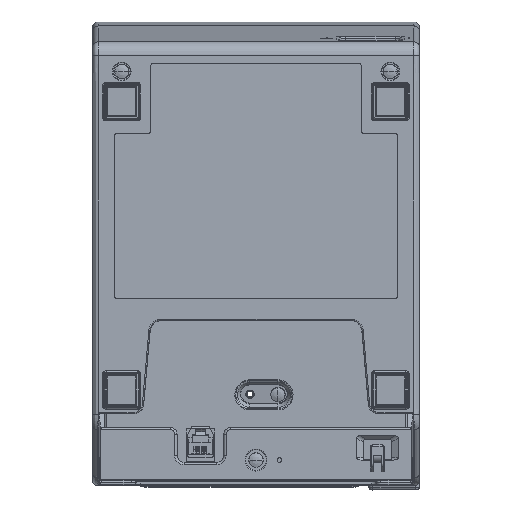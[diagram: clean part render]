
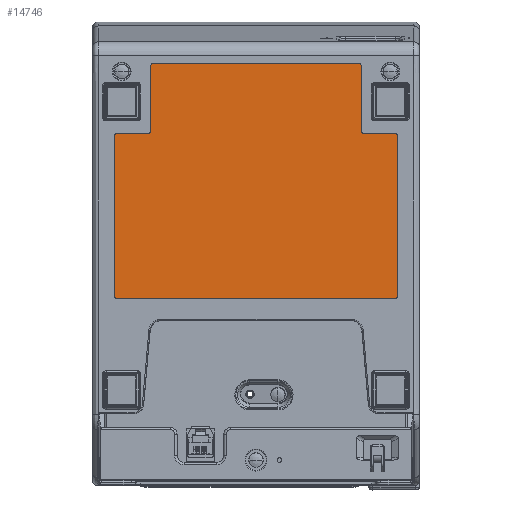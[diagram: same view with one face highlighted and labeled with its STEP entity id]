
A CAD part, front view. The second image highlights one B-rep face of the part: STEP entity #14746.
In plain terms, the highlighted planar face has unit normal (0, -1, 0).
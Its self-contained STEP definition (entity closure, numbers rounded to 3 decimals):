
#1990=DIRECTION('',(1.,0.,0.));
#1991=VECTOR('',#1990,13.5);
#1992=CARTESIAN_POINT('',(-59.5,0.4,-49.));
#1993=LINE('',#1992,#1991);
#1994=CARTESIAN_POINT('',(-46.,0.4,-48.));
#1995=DIRECTION('',(0.,-1.,0.));
#1996=DIRECTION('',(0.,0.,-1.));
#1997=AXIS2_PLACEMENT_3D('',#1994,#1995,#1996);
#1999=DIRECTION('',(0.,0.,1.));
#2000=VECTOR('',#1999,28.);
#2001=CARTESIAN_POINT('',(-45.,0.4,-48.));
#2002=LINE('',#2001,#2000);
#2003=CARTESIAN_POINT('',(-44.,0.4,-20.));
#2004=DIRECTION('',(0.,1.,0.));
#2005=DIRECTION('',(-1.,0.,0.));
#2006=AXIS2_PLACEMENT_3D('',#2003,#2004,#2005);
#2008=DIRECTION('',(1.,0.,0.));
#2009=VECTOR('',#2008,88.);
#2010=CARTESIAN_POINT('',(-44.,0.4,-19.));
#2011=LINE('',#2010,#2009);
#2012=CARTESIAN_POINT('',(44.,0.4,-20.));
#2013=DIRECTION('',(0.,1.,0.));
#2014=DIRECTION('',(0.,0.,1.));
#2015=AXIS2_PLACEMENT_3D('',#2012,#2013,#2014);
#2017=DIRECTION('',(0.,0.,-1.));
#2018=VECTOR('',#2017,28.);
#2019=CARTESIAN_POINT('',(45.,0.4,-20.));
#2020=LINE('',#2019,#2018);
#2021=CARTESIAN_POINT('',(46.,0.4,-48.));
#2022=DIRECTION('',(0.,-1.,0.));
#2023=DIRECTION('',(-1.,0.,0.));
#2024=AXIS2_PLACEMENT_3D('',#2021,#2022,#2023);
#2026=DIRECTION('',(1.,0.,0.));
#2027=VECTOR('',#2026,13.5);
#2028=CARTESIAN_POINT('',(46.,0.4,-49.));
#2029=LINE('',#2028,#2027);
#2030=CARTESIAN_POINT('',(59.5,0.4,-50.));
#2031=DIRECTION('',(0.,1.,0.));
#2032=DIRECTION('',(0.,0.,1.));
#2033=AXIS2_PLACEMENT_3D('',#2030,#2031,#2032);
#2035=DIRECTION('',(0.,0.,-1.));
#2036=VECTOR('',#2035,69.);
#2037=CARTESIAN_POINT('',(60.5,0.4,-50.));
#2038=LINE('',#2037,#2036);
#2039=CARTESIAN_POINT('',(59.5,0.4,-119.));
#2040=DIRECTION('',(0.,1.,0.));
#2041=DIRECTION('',(1.,0.,0.));
#2042=AXIS2_PLACEMENT_3D('',#2039,#2040,#2041);
#2044=DIRECTION('',(-1.,0.,0.));
#2045=VECTOR('',#2044,119.);
#2046=CARTESIAN_POINT('',(59.5,0.4,-120.));
#2047=LINE('',#2046,#2045);
#2048=CARTESIAN_POINT('',(-59.5,0.4,-119.));
#2049=DIRECTION('',(0.,1.,0.));
#2050=DIRECTION('',(0.,0.,-1.));
#2051=AXIS2_PLACEMENT_3D('',#2048,#2049,#2050);
#2053=DIRECTION('',(0.,0.,1.));
#2054=VECTOR('',#2053,69.);
#2055=CARTESIAN_POINT('',(-60.5,0.4,-119.));
#2056=LINE('',#2055,#2054);
#2057=CARTESIAN_POINT('',(-59.5,0.4,-50.));
#2058=DIRECTION('',(0.,1.,0.));
#2059=DIRECTION('',(-1.,0.,0.));
#2060=AXIS2_PLACEMENT_3D('',#2057,#2058,#2059);
#12872=CARTESIAN_POINT('',(-59.5,0.4,-49.));
#12873=CARTESIAN_POINT('',(-60.5,0.4,-50.));
#12874=VERTEX_POINT('',#12872);
#12875=VERTEX_POINT('',#12873);
#12876=CARTESIAN_POINT('',(59.5,0.4,-120.));
#12877=CARTESIAN_POINT('',(60.5,0.4,-119.));
#12878=VERTEX_POINT('',#12876);
#12879=VERTEX_POINT('',#12877);
#12880=CARTESIAN_POINT('',(-60.5,0.4,-119.));
#12881=CARTESIAN_POINT('',(-59.5,0.4,-120.));
#12882=VERTEX_POINT('',#12880);
#12883=VERTEX_POINT('',#12881);
#12884=CARTESIAN_POINT('',(60.5,0.4,-50.));
#12885=VERTEX_POINT('',#12884);
#13493=CARTESIAN_POINT('',(59.5,0.4,-49.));
#13494=VERTEX_POINT('',#13493);
#13495=CARTESIAN_POINT('',(-44.,0.4,-19.));
#13496=CARTESIAN_POINT('',(-45.,0.4,-20.));
#13497=VERTEX_POINT('',#13495);
#13498=VERTEX_POINT('',#13496);
#13499=CARTESIAN_POINT('',(45.,0.4,-20.));
#13500=CARTESIAN_POINT('',(44.,0.4,-19.));
#13501=VERTEX_POINT('',#13499);
#13502=VERTEX_POINT('',#13500);
#13519=CARTESIAN_POINT('',(-46.,0.4,-49.));
#13520=VERTEX_POINT('',#13519);
#13521=CARTESIAN_POINT('',(46.,0.4,-49.));
#13522=CARTESIAN_POINT('',(45.,0.4,-48.));
#13523=VERTEX_POINT('',#13521);
#13524=VERTEX_POINT('',#13522);
#13525=CARTESIAN_POINT('',(-45.,0.4,-48.));
#13526=VERTEX_POINT('',#13525);
#14707=CARTESIAN_POINT('',(0.,0.4,0.));
#14708=DIRECTION('',(0.,-1.,0.));
#14709=DIRECTION('',(1.,0.,0.));
#14710=AXIS2_PLACEMENT_3D('',#14707,#14708,#14709);
#14711=PLANE('',#14710);
#14713=ORIENTED_EDGE('',*,*,#14712,.T.);
#14715=ORIENTED_EDGE('',*,*,#14714,.T.);
#14717=ORIENTED_EDGE('',*,*,#14716,.T.);
#14719=ORIENTED_EDGE('',*,*,#14718,.T.);
#14721=ORIENTED_EDGE('',*,*,#14720,.T.);
#14723=ORIENTED_EDGE('',*,*,#14722,.T.);
#14725=ORIENTED_EDGE('',*,*,#14724,.T.);
#14727=ORIENTED_EDGE('',*,*,#14726,.T.);
#14729=ORIENTED_EDGE('',*,*,#14728,.T.);
#14731=ORIENTED_EDGE('',*,*,#14730,.T.);
#14733=ORIENTED_EDGE('',*,*,#14732,.T.);
#14735=ORIENTED_EDGE('',*,*,#14734,.T.);
#14737=ORIENTED_EDGE('',*,*,#14736,.T.);
#14739=ORIENTED_EDGE('',*,*,#14738,.T.);
#14741=ORIENTED_EDGE('',*,*,#14740,.T.);
#14743=ORIENTED_EDGE('',*,*,#14742,.T.);
#14744=EDGE_LOOP('',(#14713,#14715,#14717,#14719,#14721,#14723,#14725,#14727,
#14729,#14731,#14733,#14735,#14737,#14739,#14741,#14743));
#14745=FACE_OUTER_BOUND('',#14744,.F.);
#1998=CIRCLE('',#1997,1.);
#2007=CIRCLE('',#2006,1.);
#2016=CIRCLE('',#2015,1.);
#2025=CIRCLE('',#2024,1.);
#2034=CIRCLE('',#2033,1.);
#2043=CIRCLE('',#2042,1.);
#2052=CIRCLE('',#2051,1.);
#2061=CIRCLE('',#2060,1.);
#14712=EDGE_CURVE('',#12874,#13520,#1993,.T.);
#14714=EDGE_CURVE('',#13520,#13526,#1998,.T.);
#14716=EDGE_CURVE('',#13526,#13498,#2002,.T.);
#14718=EDGE_CURVE('',#13498,#13497,#2007,.T.);
#14720=EDGE_CURVE('',#13497,#13502,#2011,.T.);
#14722=EDGE_CURVE('',#13502,#13501,#2016,.T.);
#14724=EDGE_CURVE('',#13501,#13524,#2020,.T.);
#14726=EDGE_CURVE('',#13524,#13523,#2025,.T.);
#14728=EDGE_CURVE('',#13523,#13494,#2029,.T.);
#14730=EDGE_CURVE('',#13494,#12885,#2034,.T.);
#14732=EDGE_CURVE('',#12885,#12879,#2038,.T.);
#14734=EDGE_CURVE('',#12879,#12878,#2043,.T.);
#14736=EDGE_CURVE('',#12878,#12883,#2047,.T.);
#14738=EDGE_CURVE('',#12883,#12882,#2052,.T.);
#14740=EDGE_CURVE('',#12882,#12875,#2056,.T.);
#14742=EDGE_CURVE('',#12875,#12874,#2061,.T.);
#14746=ADVANCED_FACE('',(#14745),#14711,.T.);
